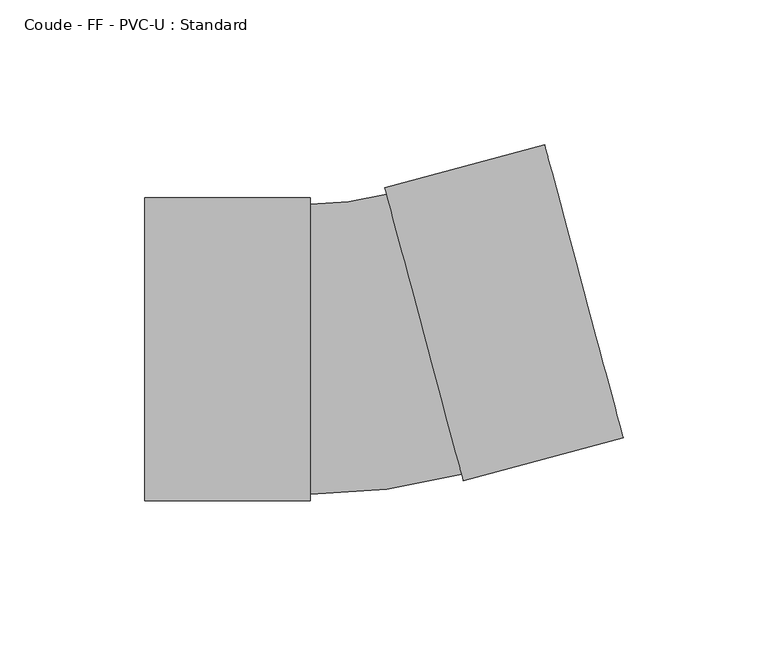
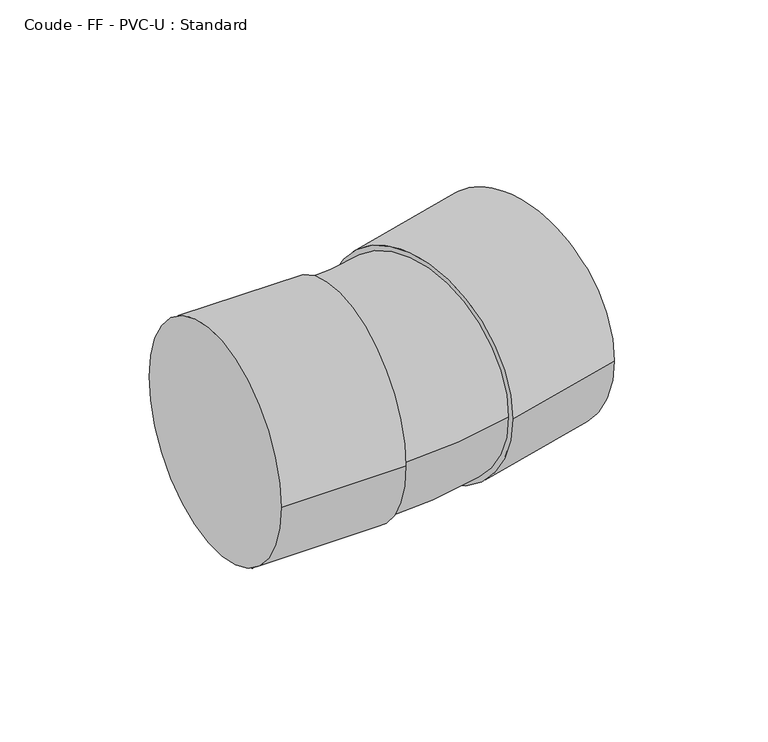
"""IFC4 building model written with IfcOpenShell, lengths in millimetres: pipe fitting geometry, Coude - FF - PVC-U : Standard."""

from ifc_helpers import new_model, si_unit, point, frame, origin, place, context, project, spatial, circle_curve, ellipse_curve, trimmed, source, transform, mapped, element, save
from ifc_brep_helpers import plane_surface, cylinder_surface, revolved_surface, advanced_brep


def coude_ff_pvc_u_standard_e51808c9(model_context):
    return source(origin(), model_context, "Body", "AdvancedBrep", [
        advanced_brep(
        [(-77.0, -52.3, 0.0), (-77.0, 52.3, 0.0), (-20.0, -52.3, 0.0), (-20.0, 52.3, 0.0), (-20.0, -50.0, 0.0), (-20.0, 50.0, 0.0), (6.379148, 53.4724833, 0.0), (32.2581917, -43.1208658, 0.0), (32.8534097, -45.3425128, 0.0), (5.78393, 55.6941303, 0.0), (87.9116187, -30.5914579, 0.0), (60.842139, 70.4451853, 0.0)],
        [
            (0, 1, circle_curve(frame((-77.0, 0.0, 0.0), z_axis=(-1.0, 0.0, 0.0), x_axis=(0.0, 1.0, 0.0)), 52.3)),
            (1, 0, circle_curve(frame((-77.0, 0.0, 0.0), z_axis=(-1.0, 0.0, 0.0), x_axis=(0.0, 1.0, 0.0)), 52.3)),
            (2, 3, circle_curve(frame((-20.0, 0.0, 0.0), z_axis=(1.0, 0.0, 0.0), x_axis=(0.0, 1.0, 0.0)), 52.3)),
            (3, 2, circle_curve(frame((-20.0, 0.0, 0.0), z_axis=(1.0, 0.0, 0.0), x_axis=(0.0, 1.0, 0.0)), 52.3)),
            (4, 5, circle_curve(frame((-20.0, 0.0, 0.0), z_axis=(-1.0, 0.0, 0.0), x_axis=(0.0, 1.0, 0.0)), 50.0)),
            (5, 4, circle_curve(frame((-20.0, 0.0, 0.0), z_axis=(-1.0, 0.0, 0.0), x_axis=(0.0, 1.0, 0.0)), 50.0)),
            (0, 2),
            (3, 1),
            (6, 5, circle_curve(frame((-20.0, 151.9324679, 0.0), z_axis=(0.0, 0.0, -1.0), x_axis=(0.0, -1.0, 0.0)), 101.9324679)),
            (4, 7, circle_curve(frame((-20.0, 151.9324679, 0.0), z_axis=(0.0, 0.0, 1.0), x_axis=(0.0, -1.0, 0.0)), 201.9324679)),
            (7, 6, circle_curve(frame((19.3186698, 5.1758087, 0.0), z_axis=(-0.9659334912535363, -0.25879043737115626, 0.0), x_axis=(-0.25879043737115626, 0.9659334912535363, 0.0)), 50.0)),
            (6, 7, circle_curve(frame((19.3186698, 5.1758087, 0.0), z_axis=(-0.9659334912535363, -0.25879043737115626, 0.0), x_axis=(-0.25879043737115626, 0.9659334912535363, 0.0)), 50.0)),
            (8, 9, circle_curve(frame((19.3186698, 5.1758087, 0.0), z_axis=(-0.9659334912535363, -0.2587904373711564, 0.0), x_axis=(-0.2587904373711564, 0.9659334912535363, 0.0)), 52.3)),
            (9, 8, circle_curve(frame((19.3186698, 5.1758087, 0.0), z_axis=(-0.9659334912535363, -0.2587904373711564, 0.0), x_axis=(-0.2587904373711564, 0.9659334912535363, 0.0)), 52.3)),
            (10, 11, circle_curve(frame((74.3768788, 19.9268637, 0.0), z_axis=(0.9659334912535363, 0.2587904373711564, 0.0), x_axis=(-0.2587904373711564, 0.9659334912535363, 0.0)), 52.3)),
            (11, 10, circle_curve(frame((74.3768788, 19.9268637, 0.0), z_axis=(0.9659334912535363, 0.2587904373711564, 0.0), x_axis=(-0.2587904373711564, 0.9659334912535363, 0.0)), 52.3)),
            (8, 10),
            (11, 9),
        ],
        [
            plane_surface(frame((-77.0, 0.0, 0.0), z_axis=(-1.0, 0.0, 0.0), x_axis=(0.0, 0.0, 1.0))),
            plane_surface(frame((-20.0, 0.0, 0.0), z_axis=(1.0, 0.0, 0.0), x_axis=(0.0, 0.0, 1.0))),
            cylinder_surface(frame((-77.0, 0.0, 0.0), z_axis=(-1.0, 0.0, 0.0), x_axis=(0.0, 1.0, 0.0)), 52.3),
            revolved_surface(trimmed(ellipse_curve(frame((-20.0, 0.0, 0.0), z_axis=(-1.0, 0.0, 0.0), x_axis=(0.0, 1.0, 0.0)), 50.0, 50.0), [point((-20.0, -50.0, 0.0))], [point((-20.0, 50.0, 0.0))], True, "CARTESIAN"), (-20.0, 151.9324679, 0.0), (0.0, 0.0, 1.0)),
            revolved_surface(trimmed(ellipse_curve(frame((-20.0, 0.0, 0.0), z_axis=(-1.0, 0.0, 0.0), x_axis=(0.0, 1.0, 0.0)), 50.0, 50.0), [point((-20.0, 50.0, 0.0))], [point((-20.0, -50.0, 0.0))], True, "CARTESIAN"), (-20.0, 151.9324679, 0.0), (0.0, 0.0, 1.0)),
            plane_surface(frame((19.3186698, 5.1758087, 0.0), z_axis=(-0.9659334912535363, -0.25879043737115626, 0.0), x_axis=(0.0, 0.0, 1.0))),
            plane_surface(frame((74.3768788, 19.9268637, 0.0), z_axis=(0.9659334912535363, 0.25879043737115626, 0.0), x_axis=(0.0, 0.0, 1.0))),
            cylinder_surface(frame((19.3186698, 5.1758087, 0.0), z_axis=(-0.9659334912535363, -0.2587904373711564, 0.0), x_axis=(-0.2587904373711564, 0.9659334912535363, 0.0)), 52.3),
        ],
        [
            (0, [[1, 2]]),
            (1, [[3, 4], [5, 6]]),
            (2, [[-1, 7, -4, 8]]),
            (2, [[-2, -8, -3, -7]]),
            (3, [[9, -5, 10, 11]]),
            (4, [[-9, 12, -10, -6]]),
            (5, [[13, 14], [-11, -12]]),
            (6, [[15, 16]]),
            (7, [[-13, 17, -16, 18]]),
            (7, [[-14, -18, -15, -17]]),
        ],
    ),
    ])


if __name__ == "__main__":
    model = new_model("IFC4")
    model_context = context("Model", 3, world=origin())
    ifc_project = project(units=[si_unit("LENGTHUNIT", "METRE", prefix="MILLI")], contexts=[model_context])
    site = spatial("IfcSite", under=ifc_project)
    building = spatial("IfcBuilding", under=site)
    placement = place(None, origin())
    coude_ff_pvc_u_standard_shape = coude_ff_pvc_u_standard_e51808c9(model_context)
    element("IfcPipeFitting", 1, ObjectType="Coude - FF - PVC-U : Standard", at=placement, inside=building, context=model_context, shape_type="MappedRepresentation", body=[
        mapped(coude_ff_pvc_u_standard_shape, transform((0.0, 0.0, 0.0), x_axis=(1.0, 0.0, 0.0), y_axis=(0.0, 1.0, 0.0), z_axis=(0.0, 0.0, 1.0))),
    ])
    save(model, "model.ifc")
